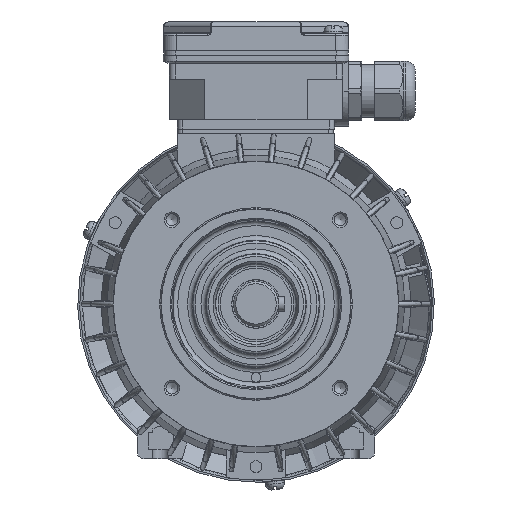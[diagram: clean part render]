
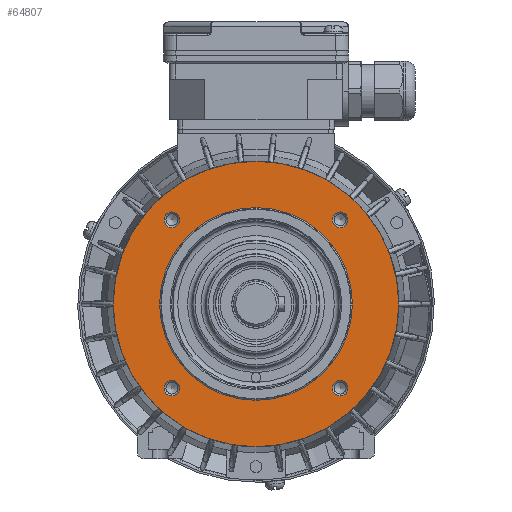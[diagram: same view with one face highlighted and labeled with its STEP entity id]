
A CAD part, left-side view. The second image highlights one B-rep face of the part: STEP entity #64807.
In plain terms, the highlighted planar face has unit normal (-1, 0, 0).
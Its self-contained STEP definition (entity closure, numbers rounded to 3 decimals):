
#8437=PLANE('',#68692);
#19771=ORIENTED_EDGE('',*,*,#29203,.T.);
#19772=ORIENTED_EDGE('',*,*,#29204,.T.);
#19773=ORIENTED_EDGE('',*,*,#29205,.T.);
#19774=ORIENTED_EDGE('',*,*,#29206,.T.);
#19775=ORIENTED_EDGE('',*,*,#29207,.T.);
#19776=ORIENTED_EDGE('',*,*,#29016,.T.);
#29016=EDGE_CURVE('',#34523,#34523,#37514,.T.);
#29203=EDGE_CURVE('',#34639,#34639,#37558,.F.);
#29204=EDGE_CURVE('',#34640,#34640,#37559,.F.);
#29205=EDGE_CURVE('',#34641,#34641,#37560,.F.);
#29206=EDGE_CURVE('',#34642,#34642,#37561,.F.);
#29207=EDGE_CURVE('',#34643,#34643,#37562,.F.);
#34523=VERTEX_POINT('',#101639);
#34639=VERTEX_POINT('',#103642);
#34640=VERTEX_POINT('',#103644);
#34641=VERTEX_POINT('',#103646);
#34642=VERTEX_POINT('',#103648);
#34643=VERTEX_POINT('',#103650);
#37514=CIRCLE('',#68579,60.);
#37558=CIRCLE('',#68693,3.3);
#37559=CIRCLE('',#68694,3.3);
#37560=CIRCLE('',#68695,3.3);
#37561=CIRCLE('',#68696,3.3);
#37562=CIRCLE('',#68697,40.5);
#40088=EDGE_LOOP('',(#19771));
#40089=EDGE_LOOP('',(#19772));
#40090=EDGE_LOOP('',(#19773));
#40091=EDGE_LOOP('',(#19774));
#40092=EDGE_LOOP('',(#19775));
#40093=EDGE_LOOP('',(#19776));
#43165=FACE_BOUND('',#40088,.T.);
#43166=FACE_BOUND('',#40089,.T.);
#43167=FACE_BOUND('',#40090,.T.);
#43168=FACE_BOUND('',#40091,.T.);
#43169=FACE_BOUND('',#40092,.T.);
#43170=FACE_BOUND('',#40093,.T.);
#64807=ADVANCED_FACE('',(#43165,#43166,#43167,#43168,#43169,#43170),#8437,
 .T.);
#68579=AXIS2_PLACEMENT_3D('',#101638,#78214,#78215);
#68692=AXIS2_PLACEMENT_3D('',#103640,#78482,#78483);
#68693=AXIS2_PLACEMENT_3D('',#103641,#78484,#78485);
#68694=AXIS2_PLACEMENT_3D('',#103643,#78486,#78487);
#68695=AXIS2_PLACEMENT_3D('',#103645,#78488,#78489);
#68696=AXIS2_PLACEMENT_3D('',#103647,#78490,#78491);
#68697=AXIS2_PLACEMENT_3D('',#103649,#78492,#78493);
#78214=DIRECTION('',(-1.,0.,0.));
#78215=DIRECTION('',(0.,0.,-1.));
#78482=DIRECTION('',(-1.,0.,0.));
#78483=DIRECTION('',(0.,0.,-1.));
#78484=DIRECTION('',(-1.,0.,0.));
#78485=DIRECTION('',(0.,0.,-1.));
#78486=DIRECTION('',(-1.,0.,0.));
#78487=DIRECTION('',(0.,0.,-1.));
#78488=DIRECTION('',(-1.,0.,0.));
#78489=DIRECTION('',(0.,0.,-1.));
#78490=DIRECTION('',(-1.,0.,0.));
#78491=DIRECTION('',(0.,0.,-1.));
#78492=DIRECTION('',(-1.,0.,0.));
#78493=DIRECTION('',(0.,0.,-1.));
#101638=CARTESIAN_POINT('',(-44.8,0.,0.));
#101639=CARTESIAN_POINT('',(-44.8,0.,-60.));
#103640=CARTESIAN_POINT('',(-44.8,0.,40.));
#103641=CARTESIAN_POINT('',(-44.8,35.355,-35.355));
#103642=CARTESIAN_POINT('',(-44.8,35.355,-38.655));
#103643=CARTESIAN_POINT('',(-44.8,-35.355,-35.355));
#103644=CARTESIAN_POINT('',(-44.8,-35.355,-38.655));
#103645=CARTESIAN_POINT('',(-44.8,-35.355,35.355));
#103646=CARTESIAN_POINT('',(-44.8,-35.355,32.055));
#103647=CARTESIAN_POINT('',(-44.8,35.355,35.355));
#103648=CARTESIAN_POINT('',(-44.8,35.355,32.055));
#103649=CARTESIAN_POINT('',(-44.8,0.,0.));
#103650=CARTESIAN_POINT('',(-44.8,0.,-40.5));
